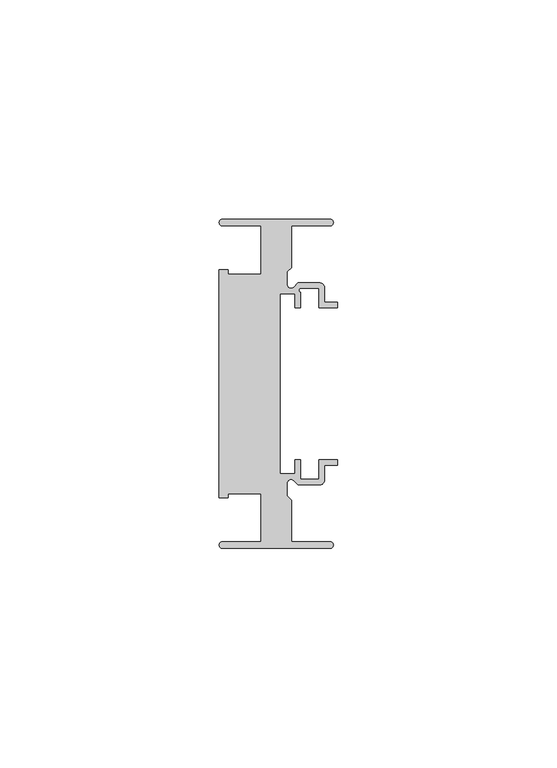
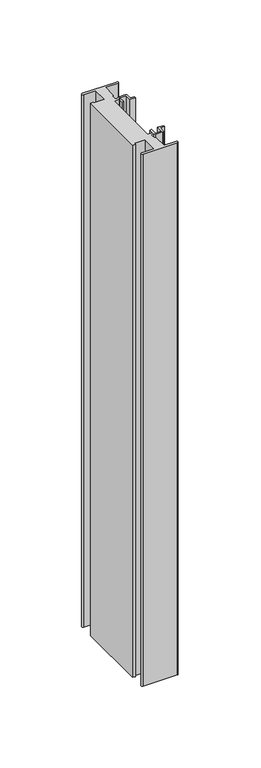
"""IFC4 building model written with IfcOpenShell, lengths in millimetres: member geometry, Прямоугольный импост : 7-AMG-2-Профиль 26Х75 Верх П."""

from ifc_helpers import new_model, si_unit, point, frame, frame_2d, origin, place, context, project, spatial, polyline, circle_curve, trimmed, segment, composite_curve, outline, extrude, source, transform, mapped, element, save


def member_8e470bcc(model_context):
    return source(origin(), model_context, "Body", "SweptSolid", [
        extrude(outline(composite_curve([segment(polyline([(-1.7, -37.5), (-26.25, -37.5)]), True, "CONTINUOUS"), segment(trimmed(circle_curve(frame_2d((-26.25, -36.75)), 0.75), [point((-26.25, -37.5))], [point((-26.25, -36.0))], False, "CARTESIAN"), True, "CONTINUOUS"), segment(polyline([(-26.25, -36.0), (-17.5, -36.0), (-17.5, -25.0), (-24.9359877, -25.0), (-24.9359877, -26.0), (-27.0, -26.0), (-27.0, 26.0), (-24.9359877, 26.0), (-24.9359877, 25.0), (-17.5, 25.0), (-17.5, 36.0), (-26.25, 36.0)]), True, "CONTINUOUS"), segment(trimmed(circle_curve(frame_2d((-26.25, 36.75)), 0.75), [point((-26.25, 36.0))], [point((-26.25, 37.5))], False, "CARTESIAN"), True, "CONTINUOUS"), segment(polyline([(-26.25, 37.5), (-1.7, 37.5)]), True, "CONTINUOUS"), segment(trimmed(circle_curve(frame_2d((-1.7, 36.75)), 0.75), [point((-1.7, 37.5))], [point((-1.7, 36.0))], False, "CARTESIAN"), True, "CONTINUOUS"), segment(polyline([(-1.7, 36.0), (-10.5, 36.0), (-10.5, 26.5029437), (-11.5, 25.5029437), (-11.5, 22.6727922)]), True, "CONTINUOUS"), segment(trimmed(circle_curve(frame_2d((-10.6, 22.6727922)), 0.9), [point((-11.5, 22.6727922))], [point((-9.9636039, 22.0363961))], True, "CARTESIAN"), True, "CONTINUOUS"), segment(polyline([(-9.9636039, 22.0363961), (-9.0, 23.0), (-4.0, 23.0)]), True, "CONTINUOUS"), segment(trimmed(circle_curve(frame_2d((-4.0, 22.0)), 1.0), [point((-4.0, 23.0))], [point((-3.0, 22.0))], False, "CARTESIAN"), True, "CONTINUOUS"), segment(polyline([(-3.0, 22.0), (-3.0, 18.55), (0.0, 18.55), (0.0, 17.35), (-4.2, 17.35), (-4.2, 21.8), (-8.5029437, 21.8)]), True, "CONTINUOUS"), segment(trimmed(circle_curve(frame_2d((-8.3343131, 21.3314262)), 0.4979937), [point((-8.5029437, 21.8))], [point((-8.45, 20.8470563))], True, "CARTESIAN"), True, "CONTINUOUS"), segment(polyline([(-8.45, 20.8470563), (-8.45, 17.35), (-9.65, 17.35), (-9.65, 20.55), (-13.15, 20.55), (-13.15, -20.55), (-9.65, -20.55), (-9.65, -17.35), (-8.45, -17.35), (-8.45, -21.8), (-4.2, -21.8), (-4.2, -17.35), (0.0, -17.35), (0.0, -18.55), (-3.0, -18.55), (-3.0, -22.0)]), True, "CONTINUOUS"), segment(trimmed(circle_curve(frame_2d((-4.0, -22.0)), 1.0), [point((-3.0, -22.0))], [point((-4.0, -23.0))], False, "CARTESIAN"), True, "CONTINUOUS"), segment(polyline([(-4.0, -23.0), (-9.0, -23.0), (-9.9636039, -22.0363961)]), True, "CONTINUOUS"), segment(trimmed(circle_curve(frame_2d((-10.6, -22.6727922)), 0.9), [point((-9.9636039, -22.0363961))], [point((-11.5, -22.6727922))], True, "CARTESIAN"), True, "CONTINUOUS"), segment(polyline([(-11.5, -22.6727922), (-11.5, -25.5029437), (-10.5, -26.5029437), (-10.5, -36.0), (-1.7, -36.0)]), True, "CONTINUOUS"), segment(trimmed(circle_curve(frame_2d((-1.7, -36.75)), 0.75), [point((-1.7, -36.0))], [point((-1.7, -37.5))], False, "CARTESIAN"), True, "CONTINUOUS")], self_intersect=False)), frame((0.0, 0.0, -400.0), z_axis=(0.0, 0.0, 1.0), x_axis=(1.0, 0.0, 0.0)), (0.0, 0.0, 1.0), 400.0),
    ])


if __name__ == "__main__":
    model = new_model("IFC4")
    model_context = context("Model", 3, world=origin())
    ifc_project = project(units=[si_unit("LENGTHUNIT", "METRE", prefix="MILLI")], contexts=[model_context])
    site = spatial("IfcSite", under=ifc_project)
    building = spatial("IfcBuilding", under=site)
    placement = place(None, origin())
    member_shape = member_8e470bcc(model_context)
    element("IfcMember", 1, ObjectType="Прямоугольный импост : 7-AMG-2-Профиль 26Х75 Верх П", at=placement, inside=building, context=model_context, shape_type="MappedRepresentation", body=[
        mapped(member_shape, transform((0.0, 0.0, 0.0), x_axis=(1.0, 0.0, 0.0), y_axis=(0.0, 1.0, 0.0), z_axis=(0.0, 0.0, 1.0))),
    ])
    save(model, "model.ifc")
